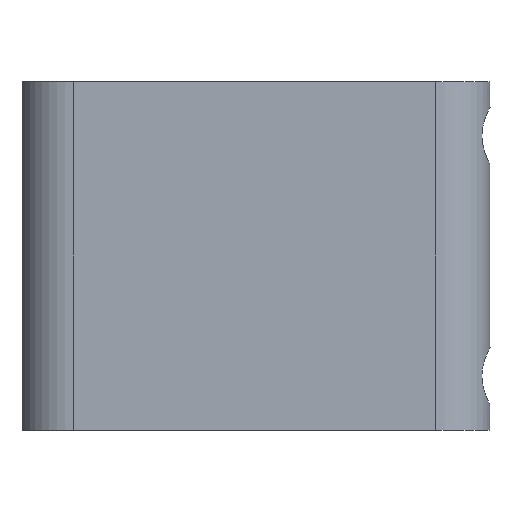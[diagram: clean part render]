
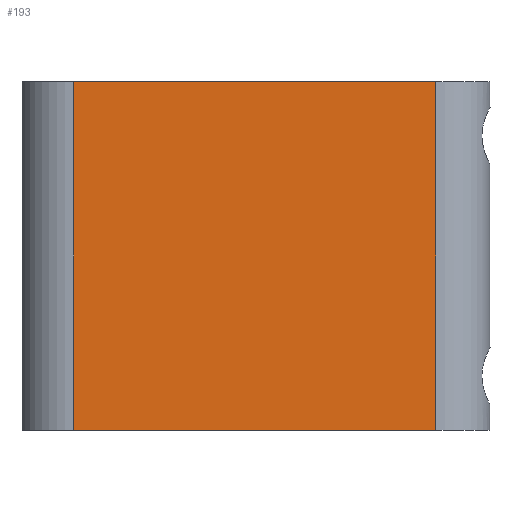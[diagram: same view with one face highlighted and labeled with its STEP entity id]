
A CAD part, left-side view. The second image highlights one B-rep face of the part: STEP entity #193.
In plain terms, the highlighted planar face has unit normal (-1, 0, 0).
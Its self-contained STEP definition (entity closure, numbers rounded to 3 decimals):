
#48 = DIRECTION ( 'NONE',  ( 0., 0., -1. ) ) ;
#57 = CARTESIAN_POINT ( 'NONE',  ( -4.05, -30.3, 13. ) ) ;
#82 = EDGE_CURVE ( 'NONE', #190, #864, #1021, .T. ) ;
#115 = CARTESIAN_POINT ( 'NONE',  ( -4.05, -3.3, 13. ) ) ;
#131 = VECTOR ( 'NONE', #48, 1000. ) ;
#178 = CARTESIAN_POINT ( 'NONE',  ( -4.05, -3.3, 13. ) ) ;
#190 = VERTEX_POINT ( 'NONE', #815 ) ;
#193 = ADVANCED_FACE ( 'NONE', ( #1226 ), #624, .F. ) ;
#274 = ORIENTED_EDGE ( 'NONE', *, *, #500, .T. ) ;
#378 = DIRECTION ( 'NONE',  ( 0., -1., 0. ) ) ;
#414 = CARTESIAN_POINT ( 'NONE',  ( -4.05, -3.3, 13. ) ) ;
#415 = LINE ( 'NONE', #908, #898 ) ;
#474 = CARTESIAN_POINT ( 'NONE',  ( -4.05, -3.3, -13. ) ) ;
#500 = EDGE_CURVE ( 'NONE', #1012, #864, #850, .T. ) ;
#505 = CARTESIAN_POINT ( 'NONE',  ( -4.05, -3.3, -13. ) ) ;
#539 = EDGE_CURVE ( 'NONE', #997, #190, #1147, .T. ) ;
#558 = ORIENTED_EDGE ( 'NONE', *, *, #539, .F. ) ;
#624 = PLANE ( 'NONE',  #832 ) ;
#635 = EDGE_LOOP ( 'NONE', ( #274, #1084, #558, #1083 ) ) ;
#661 = VECTOR ( 'NONE', #954, 1000. ) ;
#718 = VECTOR ( 'NONE', #378, 1000. ) ;
#805 = DIRECTION ( 'NONE',  ( 1., 0., 0. ) ) ;
#815 = CARTESIAN_POINT ( 'NONE',  ( -4.05, -30.3, 13. ) ) ;
#832 = AXIS2_PLACEMENT_3D ( 'NONE', #414, #805, #1194 ) ;
#850 = LINE ( 'NONE', #474, #718 ) ;
#864 = VERTEX_POINT ( 'NONE', #1090 ) ;
#898 = VECTOR ( 'NONE', #990, 1000. ) ;
#908 = CARTESIAN_POINT ( 'NONE',  ( -4.05, -3.3, 13. ) ) ;
#954 = DIRECTION ( 'NONE',  ( 0., -1., 0. ) ) ;
#990 = DIRECTION ( 'NONE',  ( 0., 0., -1. ) ) ;
#997 = VERTEX_POINT ( 'NONE', #115 ) ;
#1012 = VERTEX_POINT ( 'NONE', #505 ) ;
#1021 = LINE ( 'NONE', #57, #131 ) ;
#1047 = EDGE_CURVE ( 'NONE', #997, #1012, #415, .T. ) ;
#1083 = ORIENTED_EDGE ( 'NONE', *, *, #1047, .T. ) ;
#1084 = ORIENTED_EDGE ( 'NONE', *, *, #82, .F. ) ;
#1090 = CARTESIAN_POINT ( 'NONE',  ( -4.05, -30.3, -13. ) ) ;
#1147 = LINE ( 'NONE', #178, #661 ) ;
#1194 = DIRECTION ( 'NONE',  ( 0., 1., 0. ) ) ;
#1226 = FACE_OUTER_BOUND ( 'NONE', #635, .T. ) ;
